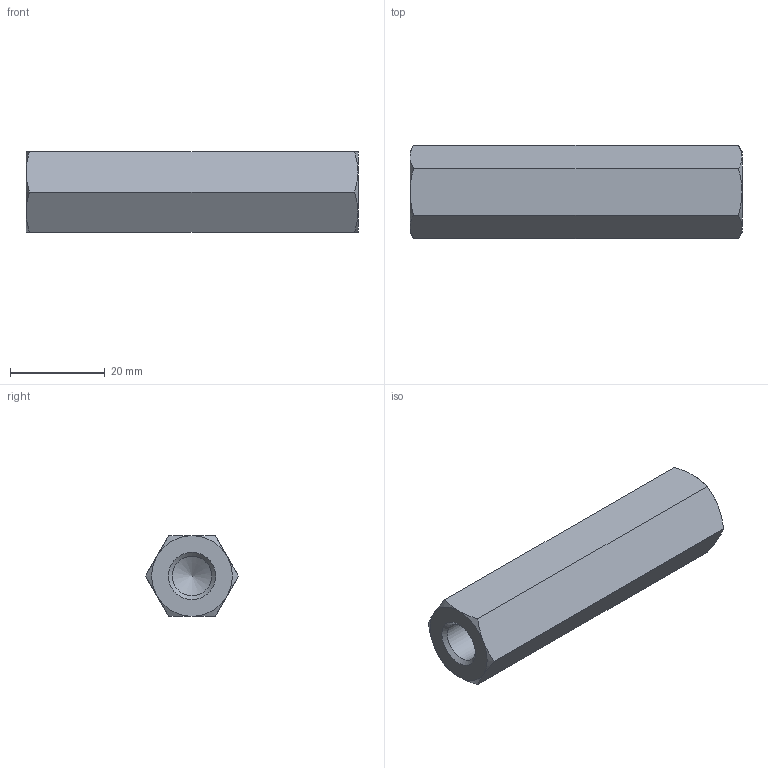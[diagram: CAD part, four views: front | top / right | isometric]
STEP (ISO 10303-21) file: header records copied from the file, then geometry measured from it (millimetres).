
FILE_DESCRIPTION( ( 'STEP AP203' ), '1' );
FILE_NAME( 'C:/Temp/Ganter_Step_05_03_2020/data/3_2/gn6220/gn6220_st/Spacer GN 6220-ST-M10-70-A.stp', '2020-03-13T05:42:37', ( 'License CC BY-ND 4.0' ), ( 'CADENAS' ), ' ', 'PARTsolutions', ' ' );
FILE_SCHEMA( ( 'CONFIG_CONTROL_DESIGN' ) );
Length unit declared in the file: millimetre
Products named in the file (1): _Spacer GN 6220-ST-M10-70-A
Bounding box: 70 x 19.63 x 17 mm (x, y, z)
Volume: 14610 mm3; surface area: 5925.9 mm2
Topology: 1 solids, 1 shells, 26 faces, 57 edges, 33 vertices
Faces by surface type: cone 16, plane 8, cylinder 2
Full cylindrical faces by diameter (mm): 8.376 x2
Entity records: 782 total; most frequent: CARTESIAN_POINT 243, DIRECTION 96, ORIENTED_EDGE 96, EDGE_CURVE 48, AXIS2_PLACEMENT_3D 45, EDGE_LOOP 32, VERTEX_POINT 32, FACE_OUTER_BOUND 28
